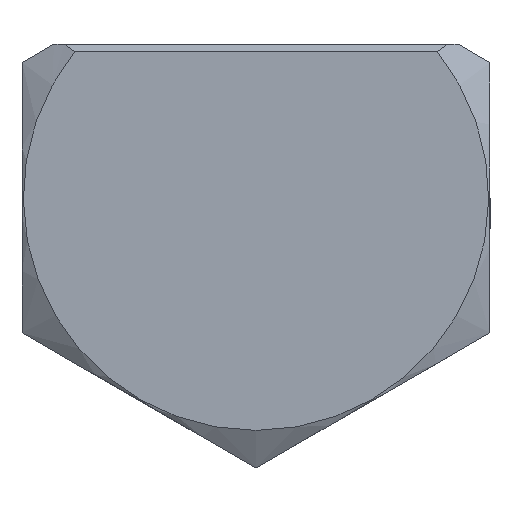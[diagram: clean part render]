
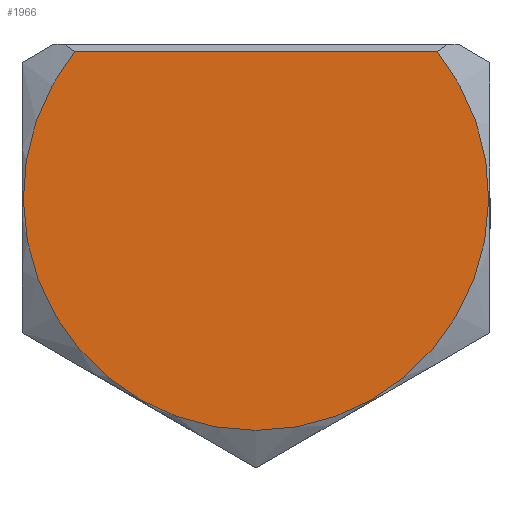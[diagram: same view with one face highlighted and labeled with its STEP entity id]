
A CAD part, front view. The second image highlights one B-rep face of the part: STEP entity #1966.
In plain terms, the highlighted planar face has unit normal (0, -1, 0).
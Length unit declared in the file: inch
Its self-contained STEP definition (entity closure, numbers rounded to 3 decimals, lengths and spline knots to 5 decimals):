
#119=PLANE('',#2187);
#218=CIRCLE('',#2176,0.6215);
#350=FACE_OUTER_BOUND('',#468,.T.);
#468=EDGE_LOOP('',(#1720,#1721));
#637=LINE('',#4765,#707);
#707=VECTOR('',#2594,0.3937);
#879=VERTEX_POINT('',#4760);
#880=VERTEX_POINT('',#4764);
#1153=EDGE_CURVE('',#879,#880,#637,.T.);
#1167=EDGE_CURVE('',#880,#879,#218,.T.);
#1720=ORIENTED_EDGE('',*,*,#1153,.F.);
#1721=ORIENTED_EDGE('',*,*,#1167,.F.);
#1966=ADVANCED_FACE('',(#350),#119,.T.);
#2176=AXIS2_PLACEMENT_3D('',#4803,#2608,#2609);
#2187=AXIS2_PLACEMENT_3D('',#4822,#2638,#2639);
#2594=DIRECTION('',(1.,0.,0.));
#2608=DIRECTION('center_axis',(0.,1.,0.));
#2609=DIRECTION('ref_axis',(0.,0.,1.));
#2638=DIRECTION('center_axis',(0.,-1.,0.));
#2639=DIRECTION('ref_axis',(0.,0.,-1.));
#4760=CARTESIAN_POINT('',(-0.4839,0.,0.39));
#4764=CARTESIAN_POINT('',(0.4839,0.,0.39));
#4765=CARTESIAN_POINT('',(0.26993,0.,0.39));
#4803=CARTESIAN_POINT('Origin',(0.,0.,0.));
#4822=CARTESIAN_POINT('Origin',(0.,0.,0.));
